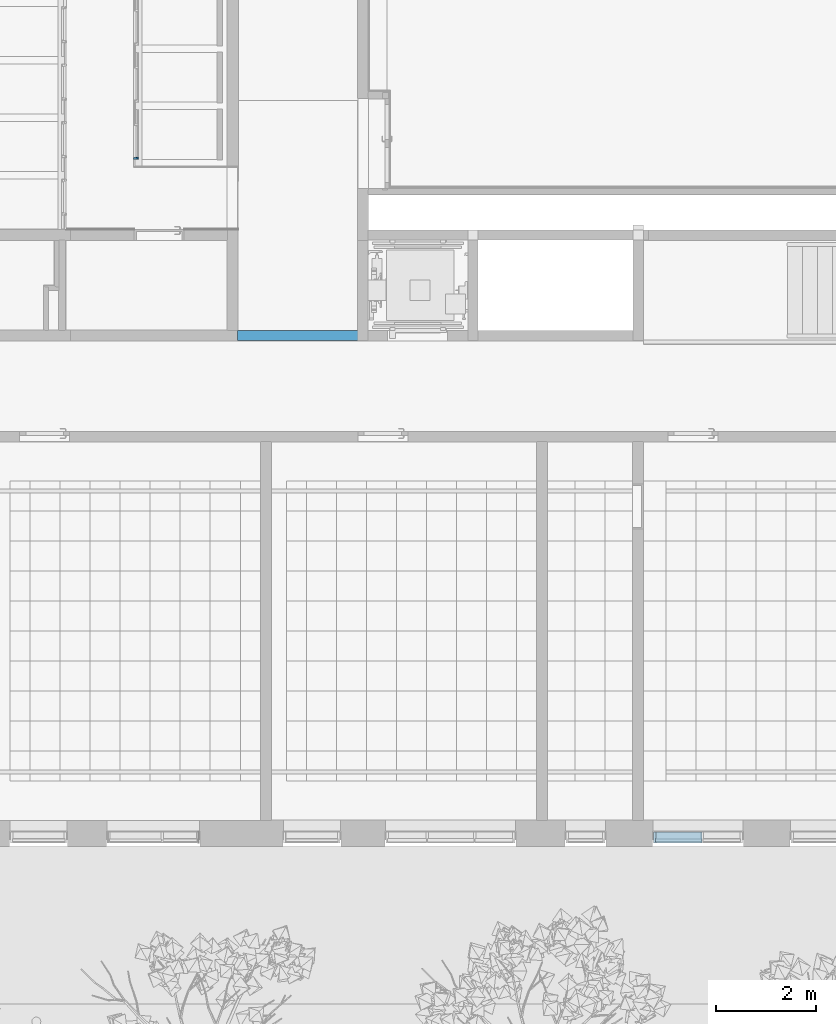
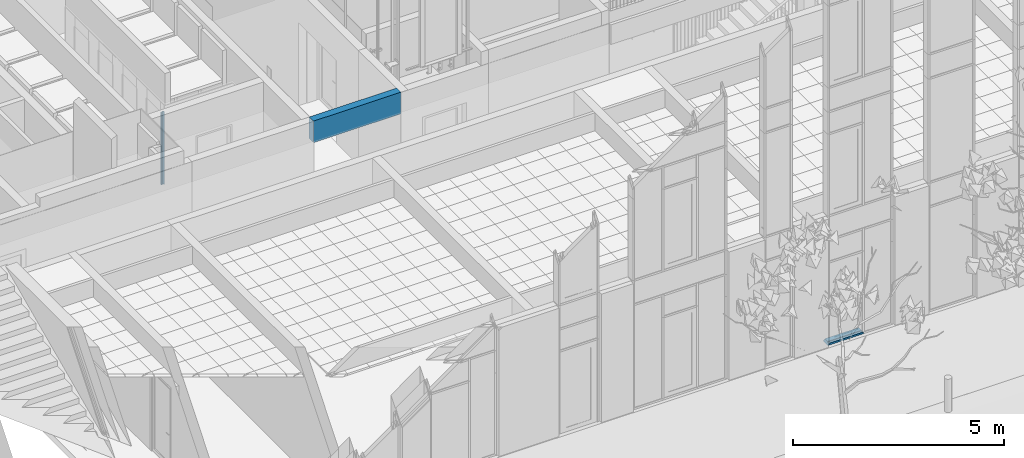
# One storey, part 59 of 246: 2 members, 1 beam, 2 elements without a shape of their own.
"""IFC2X3 building model written with IfcOpenShell, lengths in millimetres."""

import ifcopenshell
import ifcopenshell.guid

model = None  # the IFC model being written
_history = None  # IfcOwnerHistory: only IFC2X3 demands one
_inside = {}  # id of a spatial element -> (the spatial element, [elements in it])
_under = {}  # id of a project, library or spatial element -> (it, [spatial elements below it])
_declared = {}  # id of a project -> (the project, [libraries it declares])
_typed = {}  # id of a type object -> (the type object, [elements of that type])
_made_of = {}  # id of a material, layer set ... -> (it, [elements and type objects made of it])


def new_model(schema):
    """Start an empty IFC model of exactly this schema.

    Asked for "IFC4X3", IfcOpenShell would pick the latest addendum, in which some entities
    have other attributes; the version numbers below select the first issue.
    IFC2X3 requires an IfcOwnerHistory on every rooted entity: one is made here for all.
    """
    global model, _history
    if schema == "IFC4X3":
        model = ifcopenshell.file(schema_version=(4, 3, 0, 0))
    else:
        model = ifcopenshell.file(schema=schema)
    _inside.clear()
    _under.clear()
    _declared.clear()
    _typed.clear()
    _made_of.clear()
    _history = None
    if model.schema == "IFC2X3":
        org = make("IfcOrganization", Name="unknown")
        user = make(
            "IfcPersonAndOrganization",
            ThePerson=make("IfcPerson", FamilyName="unknown"),
            TheOrganization=org,
        )
        app = make(
            "IfcApplication",
            ApplicationDeveloper=org,
            Version="unknown",
            ApplicationFullName="unknown",
            ApplicationIdentifier="unknown",
        )
        _history = make(
            "IfcOwnerHistory",
            OwningUser=user,
            OwningApplication=app,
            ChangeAction="ADDED",
            CreationDate=0,
        )
    return model


def make(cls, **values):
    """One entity of the class cls with the attributes given. An attribute that is None is left unset."""
    return model.create_entity(
        cls, **{name: value for name, value in values.items() if value is not None}
    )


def entity(cls, *values):
    """Any entity or typed value of the class cls, its attributes in the order of the schema. None: left unset."""
    e = model.create_entity(cls)
    for i, value in enumerate(values):
        if value is not None:
            e[i] = value
    return e


def rooted(cls, **values):
    """An entity with a GlobalId (a new one), such as an element, a storey or a relation."""
    return make(cls, GlobalId=ifcopenshell.guid.new(), OwnerHistory=_history, **values)


def si_unit(unit_type, name, prefix=None):
    """IfcSIUnit, for example si_unit("LENGTHUNIT", "METRE", prefix="MILLI")."""
    return make("IfcSIUnit", UnitType=unit_type, Prefix=prefix, Name=name)


def converted_unit(unit_type, name, factor, base, dimensions=None, offset=None):
    """IfcConversionBasedUnit, such as the inch: factor (a typed value) times the base unit."""
    return make(
        "IfcConversionBasedUnit"
        if offset is None
        else "IfcConversionBasedUnitWithOffset",
        ConversionOffset=offset,
        Dimensions=None
        if dimensions is None
        else entity("IfcDimensionalExponents", *dimensions),
        UnitType=unit_type,
        Name=name,
        ConversionFactor=make(
            "IfcMeasureWithUnit", ValueComponent=factor, UnitComponent=base
        ),
    )


def derived_unit(unit_type, elements):
    """IfcDerivedUnit: a product of units, each with its exponent."""
    return make(
        "IfcDerivedUnit",
        Elements=[
            make("IfcDerivedUnitElement", Unit=unit, Exponent=power)
            for unit, power in elements
        ],
        UnitType=unit_type,
    )


def money_unit(currency):
    """IfcMonetaryUnit."""
    return make("IfcMonetaryUnit", Currency=currency)


def assignment(units):
    """IfcUnitAssignment: the units of a project."""
    return None if units is None else make("IfcUnitAssignment", Units=units)


def point(xyz):
    """IfcCartesianPoint."""
    return None if xyz is None else make("IfcCartesianPoint", Coordinates=xyz)


def direction(xyz):
    """IfcDirection."""
    return None if xyz is None else make("IfcDirection", DirectionRatios=xyz)


def frame(location, z_axis=None, x_axis=None):
    """IfcAxis2Placement3D, a coordinate frame: its origin and axes. An axis left out is left unset."""
    return make(
        "IfcAxis2Placement3D",
        Location=point(location),
        Axis=direction(z_axis),
        RefDirection=direction(x_axis),
    )


def origin_with_axes():
    """The frame at (0, 0, 0) with the z axis (0, 0, 1) and the x axis (1, 0, 0) written out."""
    return frame((0.0, 0.0, 0.0), z_axis=(0.0, 0.0, 1.0), x_axis=(1.0, 0.0, 0.0))


def place(relative_to, where):
    """IfcLocalPlacement: puts the frame where relative to a parent placement (None: the world)."""
    return make(
        "IfcLocalPlacement", PlacementRelTo=relative_to, RelativePlacement=where
    )


def context(
    kind, dimensions, precision=None, world=None, true_north=None, identifier=None
):
    """IfcGeometricRepresentationContext, for example the 3D "Model" context."""
    return make(
        "IfcGeometricRepresentationContext",
        ContextIdentifier=identifier,
        ContextType=kind,
        CoordinateSpaceDimension=dimensions,
        Precision=precision,
        WorldCoordinateSystem=world,
        TrueNorth=true_north,
    )


def subcontext(parent, identifier, kind, view, scale=None):
    """IfcGeometricRepresentationSubContext, for example "Body" below "Model"."""
    return make(
        "IfcGeometricRepresentationSubContext",
        ContextIdentifier=identifier,
        ContextType=kind,
        ParentContext=parent,
        TargetScale=scale,
        TargetView=view,
    )


def project(units=None, contexts=None):
    """IfcProject with its units and contexts."""
    return rooted(
        "IfcProject",
        Name="project",
        RepresentationContexts=contexts,
        UnitsInContext=assignment(units),
    )


def spatial(cls, under=None, at=None, **own):
    """A site, building, storey or space (cls), placed at a placement, below another one or the project."""
    s = rooted(cls, ObjectPlacement=at, **own)
    if under is not None:
        _under.setdefault(under.id(), (under, []))[1].append(s)
    return s


def faces_of(points, faces, orient=None, outer=None):
    """IfcFace entities. A face is a list of loops; a loop is a list of indices into points, from 0.

    orient and outer hold one flag for each loop. By default every Orientation is true, the
    first loop of a face is its IfcFaceOuterBound and the others are IfcFaceBound.
    """
    made = []
    for i, loops in enumerate(faces):
        bounds = []
        for j, loop in enumerate(loops):
            is_outer = j == 0 if outer is None else outer[i][j]
            bounds.append(
                make(
                    "IfcFaceOuterBound" if is_outer else "IfcFaceBound",
                    Bound=make("IfcPolyLoop", Polygon=[points[k] for k in loop]),
                    Orientation=True if orient is None else orient[i][j],
                )
            )
        made.append(make("IfcFace", Bounds=bounds))
    return made


def faceted_brep(points, faces, orient=None, outer=None, voids=None):
    """IfcFacetedBrep: a solid bounded by flat faces; with voids (closed shells), ...WithVoids."""
    shared = [point(p) for p in points]
    hull = make("IfcClosedShell", CfsFaces=faces_of(shared, faces, orient, outer))
    if voids is None:
        return make("IfcFacetedBrep", Outer=hull)
    return make(
        "IfcFacetedBrepWithVoids",
        Outer=hull,
        Voids=[
            make(cls, CfsFaces=faces_of(shared, fs, o, b)) for cls, fs, o, b in voids
        ],
    )


def shape(context_of_items, identifier, shape_type, items):
    """IfcShapeRepresentation: the items that make up one representation, for example the "Body"."""
    return make(
        "IfcShapeRepresentation",
        ContextOfItems=context_of_items,
        RepresentationIdentifier=identifier,
        RepresentationType=shape_type,
        Items=items,
    )


def material(Name=None, Category=None):
    """IfcMaterial."""
    return make("IfcMaterial", Name=Name, Category=Category)


def material_list(materials):
    """IfcMaterialList."""
    return make("IfcMaterialList", Materials=materials)


def made_of(thing, what):
    """Note that an element or type object is made of a material, layer set ...; save() writes the relation."""
    if what is not None:
        _made_of.setdefault(what.id(), (what, []))[1].append(thing)
    return thing


def type_object(cls, material=None, **own):
    """A type object (cls), such as IfcWallType, which elements share."""
    return made_of(rooted(cls, **own), material)


def element(
    cls,
    number,
    at=None,
    inside=None,
    cuts=None,
    type_object=None,
    material=None,
    context=None,
    identifier="Body",
    shape_type=None,
    held_by="IfcProductDefinitionShape",
    body=None,
    shapes=None,
    **own,
):
    """One element of the class cls, such as IfcWall. Its Tag is "e" and its number.

    at: its placement. inside: the storey or other place that contains it. cuts: it is an
    opening in that element (IfcRelVoidsElement). A single representation is given by context,
    identifier, shape_type and body (its items); several are given by shapes. held_by: the class
    of the entity that holds the representations. save() writes the other relations.
    """
    e = rooted(cls, Tag="e%d" % number, ObjectPlacement=at, **own)
    if body is not None:
        shapes = [shape(context, identifier, shape_type, body)]
    if shapes is not None:
        e.Representation = make(held_by, Representations=shapes)
    if inside is not None:
        _inside.setdefault(inside.id(), (inside, []))[1].append(e)
    if cuts is not None:
        rooted(
            "IfcRelVoidsElement", RelatingBuildingElement=cuts, RelatedOpeningElement=e
        )
    if type_object is not None:
        _typed.setdefault(type_object.id(), (type_object, []))[1].append(e)
    return made_of(e, material)


def aggregate(whole, parts):
    """IfcRelAggregates: a whole, such as a stair, and the parts it consists of."""
    return rooted("IfcRelAggregates", RelatingObject=whole, RelatedObjects=parts)


def save(model, path):
    """Write the relations noted so far, then the file.

    IfcRelAggregates (storeys below a building ...), IfcRelContainedInSpatialStructure (elements
    in a storey), IfcRelDefinesByType, IfcRelAssociatesMaterial and IfcRelDeclares: one each for
    every whole, place, type object, material and project.
    """
    for whole, parts in _under.values():
        aggregate(whole, parts)
    for where, things in _inside.values():
        rooted(
            "IfcRelContainedInSpatialStructure",
            RelatedElements=things,
            RelatingStructure=where,
        )
    for kind, things in _typed.values():
        rooted("IfcRelDefinesByType", RelatedObjects=things, RelatingType=kind)
    for what, things in _made_of.values():
        rooted("IfcRelAssociatesMaterial", RelatedObjects=things, RelatingMaterial=what)
    for by, libraries in _declared.values():
        rooted("IfcRelDeclares", RelatingContext=by, RelatedDefinitions=libraries)
    model.write(path)


model = new_model("IFC2X3")

# Units and contexts
model_context = context("Model", 3, precision=0.01, world=origin_with_axes(), true_north=direction((0.0, 1.0)))
body_context = subcontext(model_context, "Body", "Model", "MODEL_VIEW")
ifc_project = project(units=[si_unit("LENGTHUNIT", "METRE", prefix="MILLI"), si_unit("AREAUNIT", "SQUARE_METRE"), si_unit("VOLUMEUNIT", "CUBIC_METRE"), converted_unit("PLANEANGLEUNIT", "DEGREE", entity("IfcPlaneAngleMeasure", 0.0174532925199), si_unit("PLANEANGLEUNIT", "RADIAN"), dimensions=[0, 0, 0, 0, 0, 0, 0]), si_unit("SOLIDANGLEUNIT", "STERADIAN"), money_unit("EUR"), converted_unit("TIMEUNIT", "Year", entity("IfcTimeMeasure", 31556926.0), si_unit("TIMEUNIT", "SECOND"), dimensions=[0, 0, 1, 0, 0, 0, 0]), si_unit("MASSUNIT", "GRAM", prefix="KILO"), si_unit("THERMODYNAMICTEMPERATUREUNIT", "DEGREE_CELSIUS"), si_unit("LUMINOUSINTENSITYUNIT", "LUMEN"), si_unit("ENERGYUNIT", "JOULE", prefix="MEGA"), derived_unit("THERMALCONDUCTANCEUNIT", [(si_unit("POWERUNIT", "WATT"), 1), (si_unit("LENGTHUNIT", "METRE"), -1), (si_unit("THERMODYNAMICTEMPERATUREUNIT", "KELVIN"), -1)]), derived_unit("SPECIFICHEATCAPACITYUNIT", [(si_unit("ENERGYUNIT", "JOULE"), 1), (si_unit("MASSUNIT", "GRAM", prefix="KILO"), -1), (si_unit("THERMODYNAMICTEMPERATUREUNIT", "KELVIN"), -1)]), derived_unit("MASSDENSITYUNIT", [(si_unit("MASSUNIT", "GRAM", prefix="KILO"), 1), (si_unit("VOLUMEUNIT", "CUBIC_METRE"), -1)])], contexts=[model_context])

# Site, building, storey
site_placement = place(None, origin_with_axes())
site = spatial("IfcSite", under=ifc_project, at=site_placement, Name="L.Koidula tn 11b", CompositionType="ELEMENT")
building_placement = place(site_placement, origin_with_axes())
building = spatial("IfcBuilding", under=site, at=building_placement, Name="Rakvere Riigigümnaasium", CompositionType="ELEMENT")
storey_placement = place(building_placement, origin_with_axes())
storey = spatial("IfcBuildingStorey", under=building, at=storey_placement, Name="1.korrus 0,00", CompositionType="ELEMENT", Elevation=0.0)

# Beam
ifc_material_1 = material(Name="Betoon element / plaat")
beam_type = type_object("IfcBeamType", Name="Betoon element / plaat 200 x 625", PredefinedType="BEAM")
beam_placement = place(storey_placement, frame((46999.9999937, 15200.4785302, 3325.0), z_axis=(0.0, 0.0, 1.0), x_axis=(0.0, 1.0, 0.0)))
element("IfcBeam", 1, at=beam_placement, inside=storey, type_object=beam_type, material=ifc_material_1, Name="TALA", ObjectType="BEAM", context=body_context, shape_type="Brep", body=[
    faceted_brep([(-100.0, 0.0, -625.0), (-100.0, 2400.00000261, -625.0), (100.0, 2400.00000261, -625.0), (100.0, 0.0, -625.0), (-100.0, 0.0, 0.0), (-100.0, 2400.00000261, 0.0), (100.0, 2400.00000261, 0.0), (100.0, 0.0, 0.0)], [[[0, 1, 2, 3]], [[4, 5, 1, 0]], [[2, 1, 5, 6]], [[3, 2, 6, 7]], [[4, 0, 3, 7]], [[7, 6, 5, 4]]]),
])

# Curtain wall, member
curtain_wall_type = type_object("IfcCurtainWallType", Name="Curtain Wall Type", PredefinedType="NOTDEFINED")
curtain_wall_1_placement = place(storey_placement, frame((54287.5000684, 5111.45334637, -1.61944652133e-05), z_axis=(0.0, 0.0, 1.0), x_axis=(1.0, 0.0, 0.0)))
curtain_wall_1 = element("IfcCurtainWall", 2, at=curtain_wall_1_placement, inside=storey, type_object=curtain_wall_type, Name="KLF-05-2B")
ifc_material_2 = material(Name="Alumiiniumprofiil (RAL 7021)")
member_type_1 = type_object("IfcMemberType", Name="Boundary Frame 50 x 222", PredefinedType="MULLION")
member_1_placement = place(curtain_wall_1_placement, frame((-1377.50004974, 0.0, 0.0), z_axis=(1.0, 0.0, 0.0), x_axis=(0.0, 0.0, 1.0)))
member_1 = element("IfcMember", 3, at=member_1_placement, type_object=member_type_1, material=ifc_material_2, Name="KLF-05-9B-Profiilid", ObjectType="MULLION", context=body_context, shape_type="Brep", body=[
    faceted_brep([(37.0, -32.5, 975.0), (37.0, 32.5, 975.0), (50.0, 32.5, 975.0), (50.0, 53.0, 975.0), (0.0, 53.0, 975.0), (0.0, -169.0, 975.0), (50.0, -169.0, 975.0), (50.0, -32.5, 975.0), (37.0, -32.5, 37.0), (37.0, 32.5, 37.0), (50.0, 32.5, 50.0), (50.0, 53.0, 50.0), (0.0, 53.0, 0.0), (0.0, -169.0, 0.0), (50.0, -169.0, 50.0), (50.0, -32.5, 50.0)], [[[0, 1, 2, 3, 4, 5, 6, 7]], [[1, 0, 8, 9]], [[10, 2, 1, 9]], [[2, 10, 11, 3]], [[4, 3, 11, 12]], [[5, 4, 12, 13]], [[6, 5, 13, 14]], [[15, 7, 6, 14]], [[0, 7, 15, 8]], [[8, 15, 14, 13, 12, 11, 10, 9]]]),
])
aggregate(curtain_wall_1, [member_1])

curtain_wall_2_placement = place(storey_placement, frame((42519.9999626, 19079.4634323, 0.0), z_axis=(0.0, 0.0, 1.0), x_axis=(1.0, 0.0, 0.0)))
curtain_wall_2 = element("IfcCurtainWall", 4, at=curtain_wall_2_placement, inside=storey, type_object=curtain_wall_type, Name="SUS-02")
ifc_material_3 = material(Name="MDF")
ifc_material_4 = material(Name="Alumiiniumprofiil")
ifc_material_list = material_list([ifc_material_3, ifc_material_4])
member_type_2 = type_object("IfcMemberType", Name="SA-Siseuksesüsteem-P 46 x 0", PredefinedType="MULLION")
member_2_placement = place(curtain_wall_2_placement, frame((0.0, -325.007919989, 0.0), z_axis=(0.0, 0.0, 1.0), x_axis=(0.0, -1.0, 0.0)))
member_2 = element("IfcMember", 5, at=member_2_placement, type_object=member_type_2, material=ifc_material_list, Name="Frame-SA-Siseuks-021", ObjectType="MULLION", context=body_context, shape_type="Brep", body=[
    faceted_brep([(-10.0000294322, 91.9999779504, 2099.99998859), (33.9999997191, 91.9999779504, 2099.99998859), (33.9999997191, 91.9999779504, 0.0), (-10.0000294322, 91.9999779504, 0.0), (-10.0000294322, 81.9999773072, 2099.99998859), (33.9999997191, 81.9999773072, 2099.99998859), (33.9999997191, 81.9999773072, 0.0), (-10.0000294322, 81.9999773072, 0.0)], [[[0, 1, 2, 3]], [[4, 5, 1, 0]], [[1, 5, 6, 2]], [[7, 3, 2, 6]], [[4, 0, 3, 7]], [[5, 4, 7, 6]]]),
    faceted_brep([(0.0, 47.5000006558, 2099.99998859), (-12.0000002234, 47.5000006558, 2099.99998859), (-12.0000002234, 47.5000006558, 0.0), (0.0, 47.5000006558, 0.0), (-10.0000006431, 91.9999779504, 2099.99998859), (-12.0000002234, 91.9999779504, 2099.99998859), (0.0, 32.9000011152, 2099.99998859), (0.0, 0.0, 2099.99998859), (2.00000095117, 0.0, 2099.99998859), (1.99999958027, 10.0000006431, 2099.99998859), (2.00000095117, 10.49999951, 2099.99998859), (32.0000001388, 10.49999951, 2099.99998859), (32.0000001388, 9.99997870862, 2099.99998859), (33.9999997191, 9.99997870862, 2099.99998859), (33.9999997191, 13.9999998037, 2099.99998859), (22.4999997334, 13.9999998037, 2099.99998859), (22.4999997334, 44.3999997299, 2099.99998859), (33.9999997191, 44.3999997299, 2099.99998859), (33.9999997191, 47.600000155, 2099.99998859), (22.4999997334, 47.600000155, 2099.99998859), (22.4999997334, 78.0000000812, 2099.99998859), (33.9999997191, 78.0000000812, 2099.99998859), (33.9999997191, 81.5000003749, 2099.99998859), (24.2499991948, 81.5000003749, 2099.99998859), (-9.99999927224, 81.5000003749, 2099.99998859), (-10.0000294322, 81.9999773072, 2099.99998859), (-12.0000002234, 91.9999779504, 0.0), (0.0, 32.9000011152, 0.0), (-10.0000006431, 91.9999779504, 0.0), (-10.0000294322, 81.9999773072, 0.0), (-9.99999927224, 81.5000003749, 0.0), (24.2499991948, 81.5000003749, 0.0), (33.9999997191, 81.5000003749, 0.0), (33.9999997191, 78.0000000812, 0.0), (22.4999997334, 78.0000000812, 0.0), (22.4999997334, 47.600000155, 0.0), (33.9999997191, 47.600000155, 0.0), (33.9999997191, 44.3999997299, 0.0), (22.4999997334, 44.3999997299, 0.0), (22.4999997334, 13.9999998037, 0.0), (33.9999997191, 13.9999998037, 0.0), (33.9999997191, 9.99997870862, 0.0), (32.0000001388, 9.99997870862, 0.0), (32.0000001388, 10.49999951, 0.0), (2.00000095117, 10.49999951, 0.0), (1.99999958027, 10.0000006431, 0.0), (2.00000095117, 0.0, 0.0), (0.0, 0.0, 0.0)], [[[0, 1, 2, 3]], [[4, 5, 1, 0, 6, 7, 8, 9, 10, 11, 12, 13, 14, 15, 16, 17, 18, 19, 20, 21, 22, 23, 24, 25]], [[1, 5, 26, 2]], [[27, 3, 2, 26, 28, 29, 30, 31, 32, 33, 34, 35, 36, 37, 38, 39, 40, 41, 42, 43, 44, 45, 46, 47]], [[6, 0, 3, 27]], [[5, 4, 28, 26]], [[7, 6, 27, 47]], [[8, 7, 47, 46]], [[9, 8, 46, 45]], [[10, 9, 45, 44]], [[11, 10, 44, 43]], [[12, 11, 43, 42]], [[13, 12, 42, 41]], [[14, 13, 41, 40]], [[15, 14, 40, 39]], [[16, 15, 39, 38]], [[17, 16, 38, 37]], [[18, 17, 37, 36]], [[19, 18, 36, 35]], [[20, 19, 35, 34]], [[21, 20, 34, 33]], [[22, 21, 33, 32]], [[23, 22, 32, 31]], [[24, 23, 31, 30]], [[25, 24, 30, 29]], [[4, 25, 29, 28]]]),
    faceted_brep([(33.9999997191, 9.99997870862, 0.0), (1.99999958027, 10.0000006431, 0.0), (1.99999958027, 10.0000006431, 2099.99998859), (33.9999997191, 9.99997870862, 2099.99998859), (33.9999997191, 0.0, 0.0), (1.99999958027, 0.0, 0.0), (1.99999958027, 0.0, 2099.99998859), (33.9999997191, 0.0, 2099.99998859)], [[[0, 1, 2, 3]], [[0, 4, 5, 1]], [[1, 5, 6, 2]], [[3, 2, 6, 7]], [[4, 0, 3, 7]], [[5, 4, 7, 6]]]),
])
aggregate(curtain_wall_2, [member_2])

save(model, "model.ifc")
